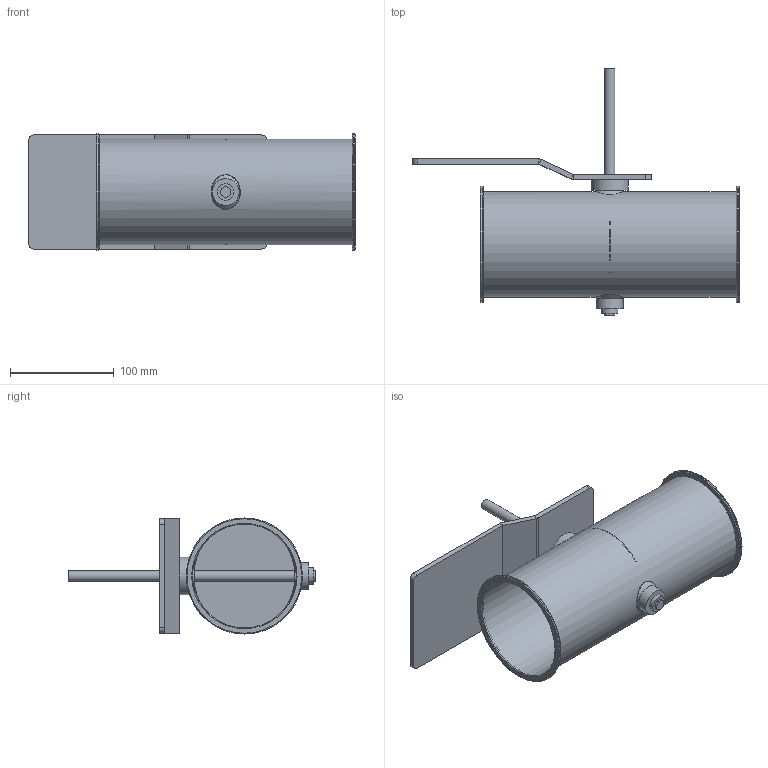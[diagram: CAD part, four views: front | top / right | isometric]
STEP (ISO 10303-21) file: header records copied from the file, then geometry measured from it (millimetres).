
FILE_DESCRIPTION(/* description */ (''),/* implementation_level */ '2;1');
FILE_NAME(/* name */ 'EA120-80B__100_L250_Belimo_Typen_NF_SF.stp',/* time_stamp */ '2017-12-05T13:29:23+01:00',/* author */ (''),/* organization */ (''),/* preprocessor_version */ 'ST-DEVELOPER v11',/* originating_system */ 'SIEMENS UGS NX 6.0',/* authorisation */ '');
FILE_SCHEMA (('CONFIG_CONTROL_DESIGN'));
Length unit declared in the file: millimetre
Products named in the file (1): gars1E3Bhihe
Bounding box: 315 x 239 x 112 mm (x, y, z)
Volume: 244982.8 mm3; surface area: 252840.4 mm2
Topology: 8 solids, 8 shells, 91 faces, 190 edges, 123 vertices
Faces by surface type: plane 42, cylinder 31, torus 10, cone 4, bspline 4
Full cylindrical faces by diameter (mm): 4.1 x3, 10 x3, 15 x3, 15.85 x2, 16 x2, 24 x2, 26 x1, 36 x1, 100 x1, 101.6 x1, 112 x2
Entity records: 2820 total; most frequent: CARTESIAN_POINT 998, DIRECTION 376, ORIENTED_EDGE 264, AXIS2_PLACEMENT_3D 164, EDGE_LOOP 160, EDGE_CURVE 132, FACE_BOUND 130, VERTEX_POINT 104
